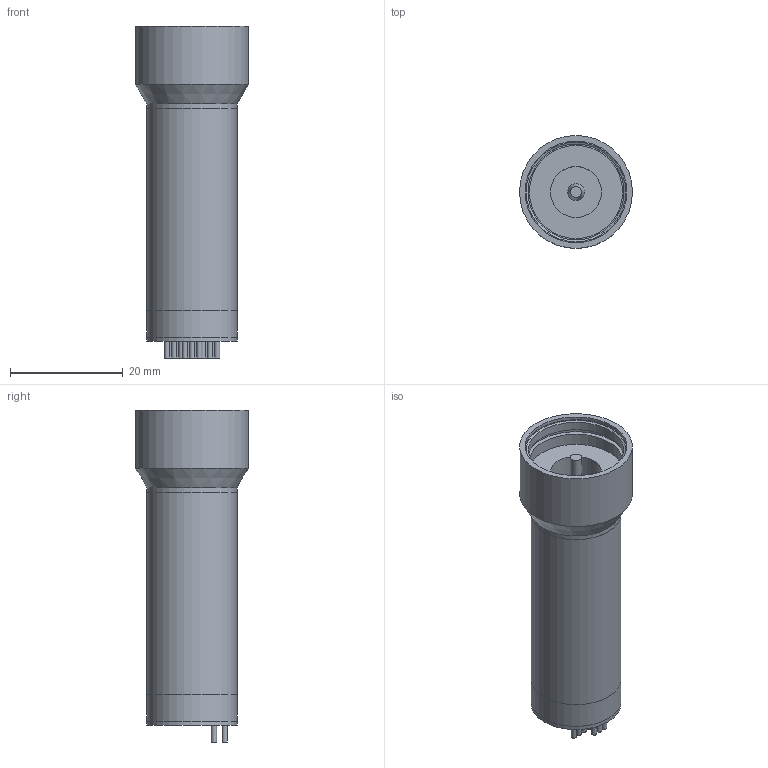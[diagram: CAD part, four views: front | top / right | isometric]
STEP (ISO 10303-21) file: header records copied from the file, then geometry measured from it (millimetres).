
FILE_DESCRIPTION(/* description */ (''),/* implementation_level */ '2;1');
FILE_NAME(/* name */ '1645S_BHS_201R.stp',/* time_stamp */ '2018-08-15T10:34:07+02:00',/* author */ ('DR. FRITZ FAULHABER GmbH & Co. KG'),/* organization */ ('DR. FRITZ FAULHABER GmbH & Co. KG'),/* preprocessor_version */ 'ST-DEVELOPER v16.7',/* originating_system */ 'SIEMENS PLM Software NX 12.0',/* authorisation */ '');
FILE_SCHEMA (('AUTOMOTIVE_DESIGN { 1 0 10303 214 3 1 1 1 }'));
Length unit declared in the file: millimetre
Products named in the file (1): Alle_Motoren
Bounding box: 20 x 20 x 58.8 mm (x, y, z)
Volume: 11117.1 mm3; surface area: 4106.3 mm2
Topology: 1 solids, 1 shells, 68 faces, 144 edges, 94 vertices
Faces by surface type: cylinder 32, plane 32, cone 3, torus 1
Full cylindrical faces by diameter (mm): 0.9 x3, 2 x1, 3 x1, 9 x1, 15.999 x3, 16 x4, 16.5 x1, 16.96 x1, 18 x2, 20 x1
Entity records: 1760 total; most frequent: DIRECTION 326, CARTESIAN_POINT 285, ORIENTED_EDGE 244, AXIS2_PLACEMENT_3D 135, EDGE_CURVE 122, EDGE_LOOP 106, VERTEX_POINT 94, FACE_BOUND 73
